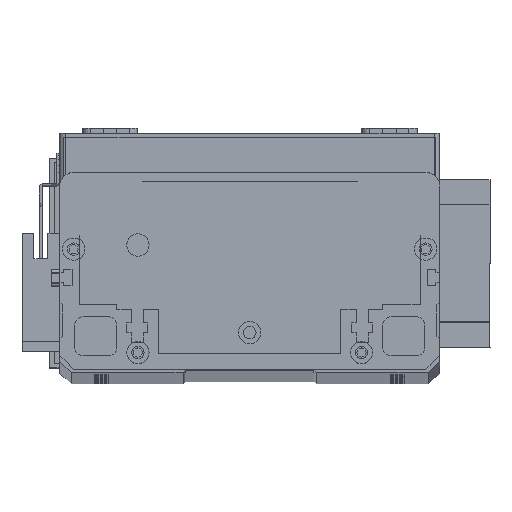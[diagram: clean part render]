
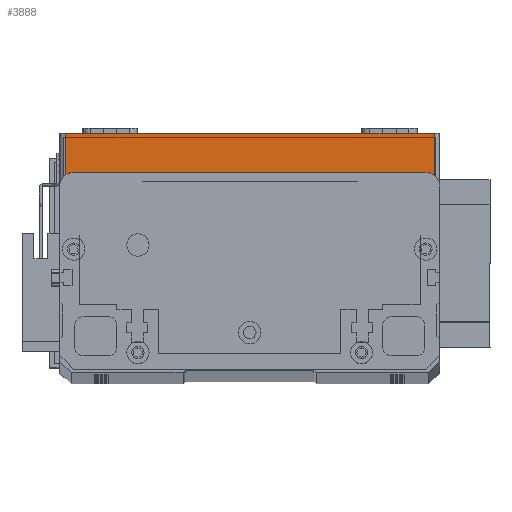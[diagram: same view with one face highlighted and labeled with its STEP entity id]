
A CAD part, top view. The second image highlights one B-rep face of the part: STEP entity #3888.
In plain terms, the highlighted planar face has unit normal (0, 0, 1) as drawn and (0, -1, 0) by its records, which use the part's own axes.
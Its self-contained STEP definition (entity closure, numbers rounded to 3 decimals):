
#287 = DIRECTION ( 'NONE',  ( 0., 0., 1. ) ) ;
#466 = VERTEX_POINT ( 'NONE', #5402 ) ;
#1118 = VECTOR ( 'NONE', #287, 1000. ) ;
#3297 = CARTESIAN_POINT ( 'NONE',  ( 134., 0., 19.5 ) ) ;
#3736 = VERTEX_POINT ( 'NONE', #14685 ) ;
#3792 = DIRECTION ( 'NONE',  ( 0., 0., -1. ) ) ;
#3888 = ADVANCED_FACE ( 'NONE', ( #26312 ), #22305, .F. ) ;
#4141 = LINE ( 'NONE', #25759, #15932 ) ;
#5402 = CARTESIAN_POINT ( 'NONE',  ( 2., 0., 0. ) ) ;
#6003 = EDGE_CURVE ( 'NONE', #12086, #466, #7769, .T. ) ;
#7171 = CARTESIAN_POINT ( 'NONE',  ( 2., 0., 19.5 ) ) ;
#7769 = LINE ( 'NONE', #20289, #14031 ) ;
#7960 = ORIENTED_EDGE ( 'NONE', *, *, #6003, .T. ) ;
#8049 = CARTESIAN_POINT ( 'NONE',  ( 0., 0., 0. ) ) ;
#8212 = DIRECTION ( 'NONE',  ( 0., 1., 0. ) ) ;
#8565 = LINE ( 'NONE', #8049, #21068 ) ;
#11186 = VERTEX_POINT ( 'NONE', #3297 ) ;
#11637 = ORIENTED_EDGE ( 'NONE', *, *, #24618, .T. ) ;
#12086 = VERTEX_POINT ( 'NONE', #7171 ) ;
#13653 = LINE ( 'NONE', #28474, #1118 ) ;
#14031 = VECTOR ( 'NONE', #3792, 1000. ) ;
#14685 = CARTESIAN_POINT ( 'NONE',  ( 134., 0., 0. ) ) ;
#15667 = ORIENTED_EDGE ( 'NONE', *, *, #18285, .T. ) ;
#15932 = VECTOR ( 'NONE', #30510, 1000. ) ;
#17560 = CARTESIAN_POINT ( 'NONE',  ( 0., 0., 19.5 ) ) ;
#18002 = EDGE_CURVE ( 'NONE', #12086, #11186, #4141, .T. ) ;
#18285 = EDGE_CURVE ( 'NONE', #466, #3736, #8565, .T. ) ;
#18358 = ORIENTED_EDGE ( 'NONE', *, *, #18002, .F. ) ;
#19778 = DIRECTION ( 'NONE',  ( 1., 0., 0. ) ) ;
#20289 = CARTESIAN_POINT ( 'NONE',  ( 2., 0., 19.5 ) ) ;
#21068 = VECTOR ( 'NONE', #19778, 1000. ) ;
#22305 = PLANE ( 'NONE',  #25377 ) ;
#23381 = EDGE_LOOP ( 'NONE', ( #18358, #7960, #15667, #11637 ) ) ;
#24618 = EDGE_CURVE ( 'NONE', #3736, #11186, #13653, .T. ) ;
#24652 = DIRECTION ( 'NONE',  ( 0., 0., 1. ) ) ;
#25377 = AXIS2_PLACEMENT_3D ( 'NONE', #17560, #8212, #24652 ) ;
#25759 = CARTESIAN_POINT ( 'NONE',  ( 0., 0., 19.5 ) ) ;
#26312 = FACE_OUTER_BOUND ( 'NONE', #23381, .T. ) ;
#28474 = CARTESIAN_POINT ( 'NONE',  ( 134., 0., 19.5 ) ) ;
#30510 = DIRECTION ( 'NONE',  ( 1., 0., 0. ) ) ;
